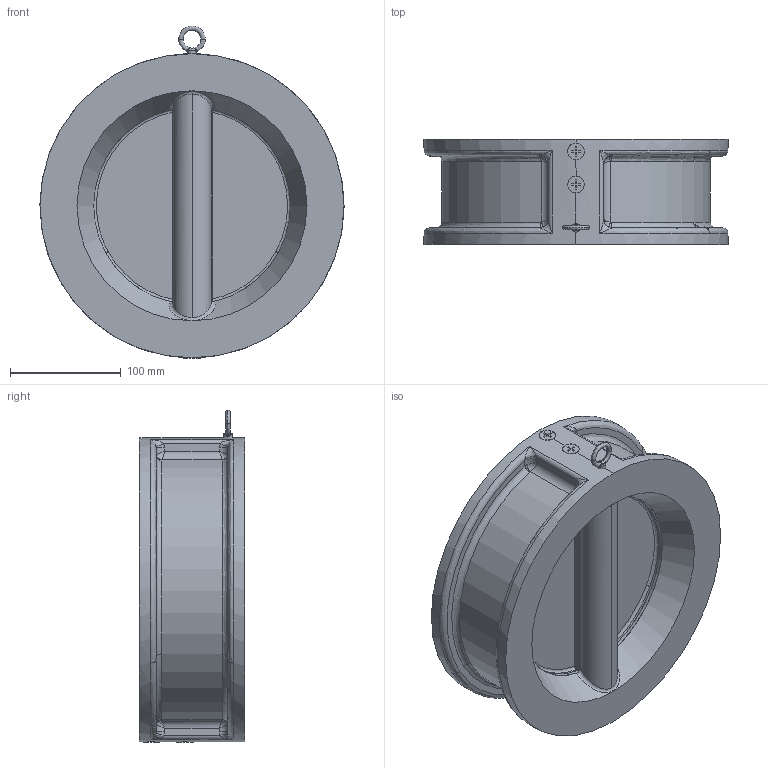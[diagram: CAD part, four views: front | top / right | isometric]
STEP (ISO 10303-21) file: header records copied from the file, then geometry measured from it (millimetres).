
FILE_DESCRIPTION (( 'STEP AP203' ), '1' );
FILE_NAME ('00.STEP', '2017-04-02T09:47:15', ( 'User' ), ( 'shendu' ), 'SwSTEP 2.0', 'SolidWorks 2015', '' );
FILE_SCHEMA (( 'CONFIG_CONTROL_DESIGN' ));
Products named in the file (1): 00
Bounding box: 275 x 95 x 300.27 mm (x, y, z)
Volume: 2061433.7 mm3; surface area: 390629.9 mm2
Topology: 17 solids, 17 shells, 467 faces, 1110 edges, 651 vertices
Faces by surface type: bspline 155, cylinder 154, plane 130, cone 28
Entity records: 150501 total; most frequent: CARTESIAN_POINT 140821, ORIENTED_EDGE 2172, DIRECTION 1683, EDGE_CURVE 1086, VERTEX_POINT 651, AXIS2_PLACEMENT_3D 622, EDGE_LOOP 499, ADVANCED_FACE 467
